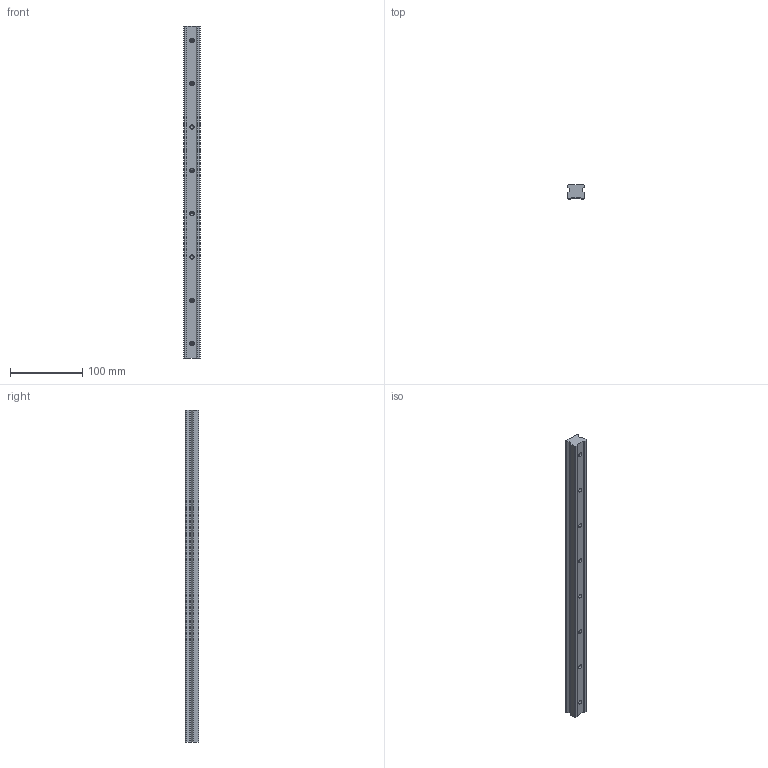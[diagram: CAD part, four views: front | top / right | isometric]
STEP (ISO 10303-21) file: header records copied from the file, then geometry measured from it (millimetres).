
FILE_DESCRIPTION (( 'STEP AP203' ), '1' );
FILE_NAME ('L1016.BRF25-0460.step', '2019-06-13T08:34:51', ( '' ), ( '' ), 'SwSTEP 2.0', 'SolidWorks 2017', '' );
FILE_SCHEMA (( 'CONFIG_CONTROL_DESIGN' ));
Length unit declared in the file: millimetre
Products named in the file (1): L1016.BRF25-0460
Bounding box: 23 x 19.2 x 460 mm (x, y, z)
Volume: 175515.2 mm3; surface area: 43065.2 mm2
Topology: 1 solids, 1 shells, 82 faces, 200 edges, 120 vertices
Faces by surface type: cylinder 36, plane 30, cone 16
Entity records: 2373 total; most frequent: DIRECTION 422, CARTESIAN_POINT 387, ORIENTED_EDGE 368, EDGE_CURVE 184, AXIS2_PLACEMENT_3D 155, VERTEX_POINT 120, VECTOR 112, LINE 112
